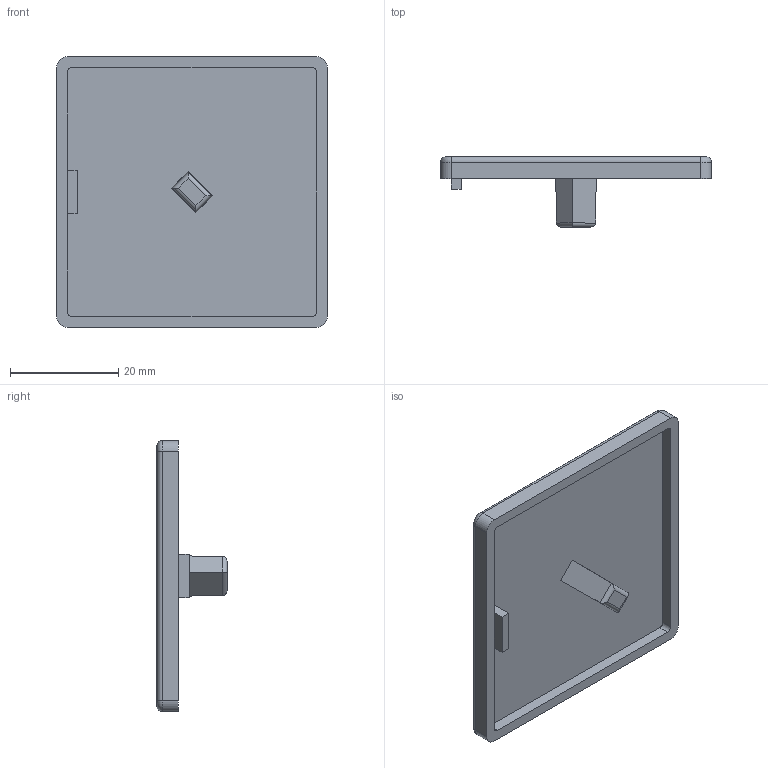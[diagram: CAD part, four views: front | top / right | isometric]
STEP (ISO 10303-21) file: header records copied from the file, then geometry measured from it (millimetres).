
FILE_DESCRIPTION (( 'STEP AP203' ), '1' );
FILE_NAME ('J5C5.STEP', '2018-08-29T04:25:58', ( 'sr-d11' ), ( 'MouseComputer PC' ), 'SwSTEP 2.0', 'SolidWorks 2014', '' );
FILE_SCHEMA (( 'CONFIG_CONTROL_DESIGN' ));
Length unit declared in the file: millimetre
Products named in the file (1): J5C5
Bounding box: 50 x 13 x 50 mm (x, y, z)
Volume: 6055.5 mm3; surface area: 6326 mm2
Topology: 1 solids, 1 shells, 42 faces, 100 edges, 62 vertices
Faces by surface type: plane 22, cylinder 16, torus 4
Entity records: 1277 total; most frequent: CARTESIAN_POINT 217, DIRECTION 210, ORIENTED_EDGE 200, EDGE_CURVE 100, AXIS2_PLACEMENT_3D 71, LINE 68, VECTOR 68, VERTEX_POINT 62
